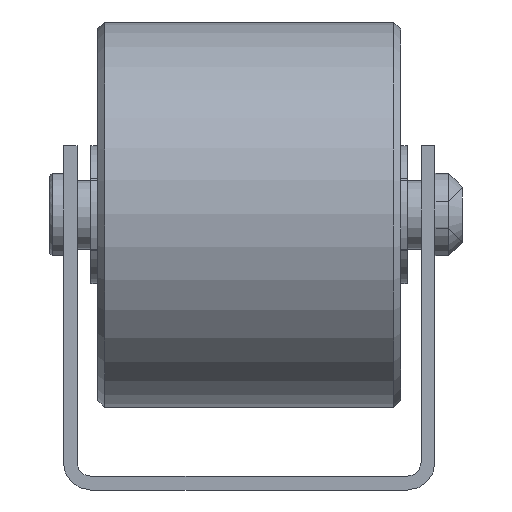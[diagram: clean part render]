
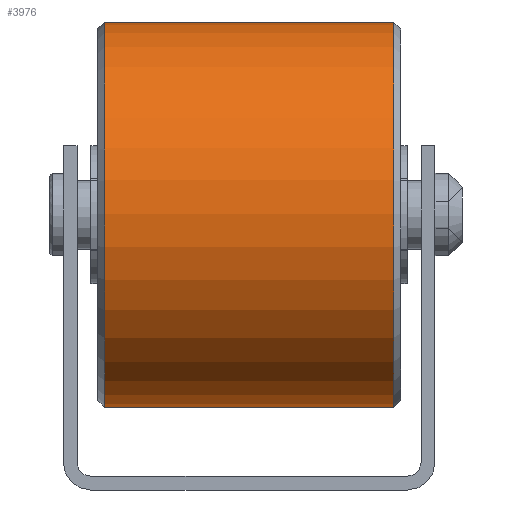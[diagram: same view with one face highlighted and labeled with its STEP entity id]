
A CAD part, front view. The second image highlights one B-rep face of the part: STEP entity #3976.
In plain terms, the highlighted cylindrical face has radius 14 mm (diameter 28 mm), a full revolution.
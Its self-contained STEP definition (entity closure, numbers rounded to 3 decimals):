
#670=CYLINDRICAL_SURFACE('',#4515,14.);
#991=CIRCLE('',#4516,14.);
#992=CIRCLE('',#4517,14.);
#1689=ORIENTED_EDGE('',*,*,#2062,.T.);
#1690=ORIENTED_EDGE('',*,*,#2063,.T.);
#2062=EDGE_CURVE('',#2407,#2407,#991,.F.);
#2063=EDGE_CURVE('',#2408,#2408,#992,.F.);
#2407=VERTEX_POINT('',#6812);
#2408=VERTEX_POINT('',#6814);
#3103=EDGE_LOOP('',(#1689));
#3104=EDGE_LOOP('',(#1690));
#3759=FACE_BOUND('',#3103,.T.);
#3760=FACE_BOUND('',#3104,.T.);
#3976=ADVANCED_FACE('',(#3759,#3760),#670,.T.);
#4515=AXIS2_PLACEMENT_3D('',#6810,#5665,#5666);
#4516=AXIS2_PLACEMENT_3D('',#6811,#5667,#5668);
#4517=AXIS2_PLACEMENT_3D('',#6813,#5669,#5670);
#5665=DIRECTION('',(-1.,0.,0.));
#5666=DIRECTION('',(0.,0.,1.));
#5667=DIRECTION('',(1.,0.,0.));
#5668=DIRECTION('',(0.,0.,-1.));
#5669=DIRECTION('',(-1.,0.,0.));
#5670=DIRECTION('',(0.,0.,1.));
#6810=CARTESIAN_POINT('',(-60.,0.,0.));
#6811=CARTESIAN_POINT('',(10.5,0.,0.));
#6812=CARTESIAN_POINT('',(10.5,0.,-14.));
#6813=CARTESIAN_POINT('',(-10.5,0.,0.));
#6814=CARTESIAN_POINT('',(-10.5,0.,14.));
